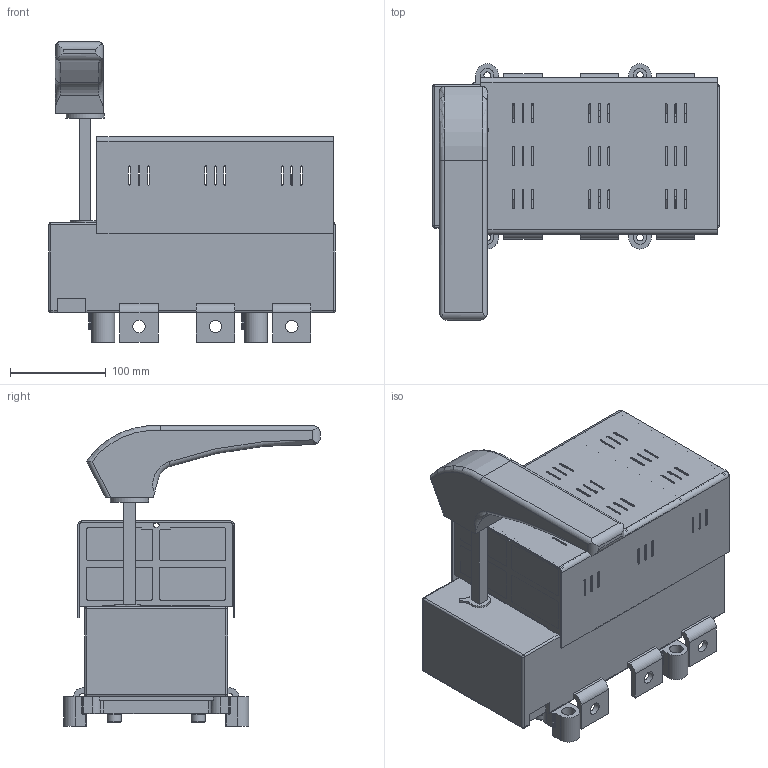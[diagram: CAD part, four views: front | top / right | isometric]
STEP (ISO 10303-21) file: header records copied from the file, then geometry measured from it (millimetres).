
FILE_DESCRIPTION(/* description */ (''),/* implementation_level */ '2;1');
FILE_NAME(/* name */ 'RAB 3 P3 C-R.stp',/* time_stamp */ '2021-08-19T15:10:15+02:00',/* author */ (''),/* organization */ (''),/* preprocessor_version */ 'ST-DEVELOPER v18.1',/* originating_system */ 'SIEMENS PLM Software NX 1965',/* authorisation */ '');
FILE_SCHEMA (('AUTOMOTIVE_DESIGN { 1 0 10303 214 3 1 1 1 }'));
Length unit declared in the file: millimetre
Products named in the file (1): RAB 3 P3 C-R_stp
Bounding box: 300 x 269 x 314.5 mm (x, y, z)
Volume: 4918726.1 mm3; surface area: 677851.4 mm2
Topology: 1 solids, 13 shells, 1596 faces, 4332 edges, 2775 vertices
Faces by surface type: plane 918, cylinder 562, torus 50, bspline 50, cone 8, sphere 8
Full cylindrical faces by diameter (mm): 3 x4, 4.8 x4, 5.6 x4, 6.5 x26, 7 x4, 10.5 x26, 13 x6, 13.5 x4, 14 x4, 15 x4, 40 x1
Entity records: 52205 total; most frequent: CARTESIAN_POINT 11769, DIRECTION 8368, ORIENTED_EDGE 8362, EDGE_CURVE 4181, LINE 2820, VECTOR 2820, AXIS2_PLACEMENT_3D 2774, VERTEX_POINT 2747
